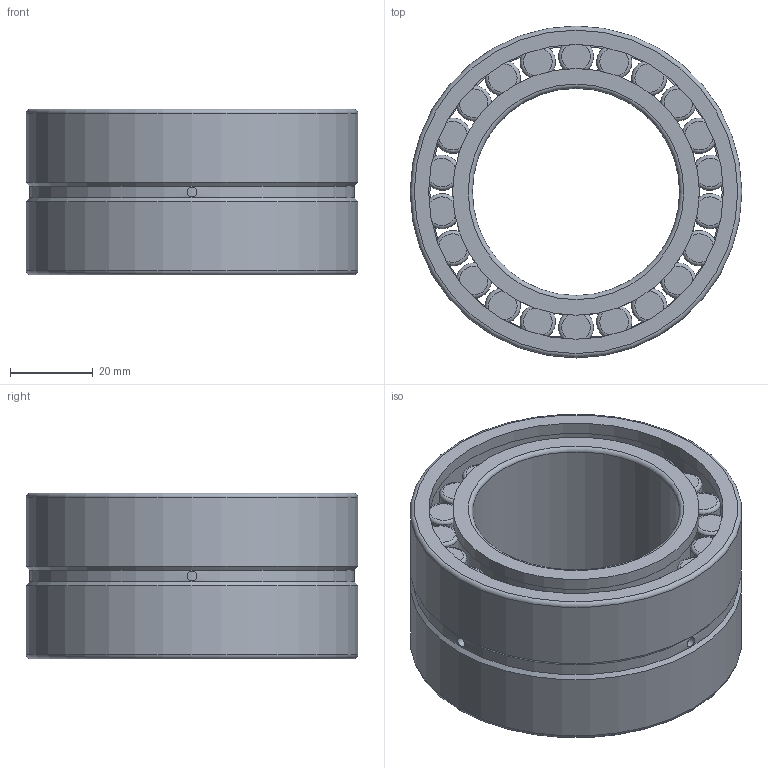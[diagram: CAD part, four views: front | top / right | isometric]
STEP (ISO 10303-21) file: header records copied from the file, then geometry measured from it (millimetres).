
FILE_DESCRIPTION(/* description */ (''),/* implementation_level */ '2;1');
FILE_NAME(/* name */ 'C:\Users\OUREHANEKD\Desktop\Ložiská\MODELY\JRVL\NNCF\NNCF50\NNCF50--\NNCF5010V.stp',/* time_stamp */ '2016-09-08T13:33:41+02:00',/* author */ ('OUREHANEKD'),/* organization */ (''),/* preprocessor_version */ 'ST-DEVELOPER v15.6',/* originating_system */ 'Autodesk Inventor 2015',/* authorisation */ '');
FILE_SCHEMA (('AUTOMOTIVE_DESIGN { 1 0 10303 214 3 1 1 }'));
Length unit declared in the file: millimetre
Products named in the file (5): NNCF5010V-01; NNCF5010V-02; NNCF5010V-kr; NNCF5010V-roller; NNCF5010V
Assembly tree (25 placements, depth 2):
  NNCF5010V
    NNCF5010V-01
    NNCF5010V-02
    NNCF5010V-kr
    NNCF5010V-roller  x22
Bounding box: 80 x 80 x 40 mm (x, y, z)
Volume: 86122.2 mm3; surface area: 57977.9 mm2
Topology: 47 solids, 47 shells, 257 faces, 372 edges, 216 vertices
Faces by surface type: plane 101, torus 92, cylinder 62, cone 2
Full cylindrical faces by diameter (mm): 2.4 x3, 8.5 x44, 50 x1, 56.8 x2, 59.5 x3, 70.5 x1, 71.1 x1, 73.8 x2, 75.3 x2, 78.4 x1, 80 x2
Entity records: 1432 total; most frequent: CARTESIAN_POINT 371, DIRECTION 238, AXIS2_PLACEMENT_3D 119, EDGE_LOOP 96, ORIENTED_EDGE 96, FACE_BOUND 49, VERTEX_POINT 48, EDGE_CURVE 48
